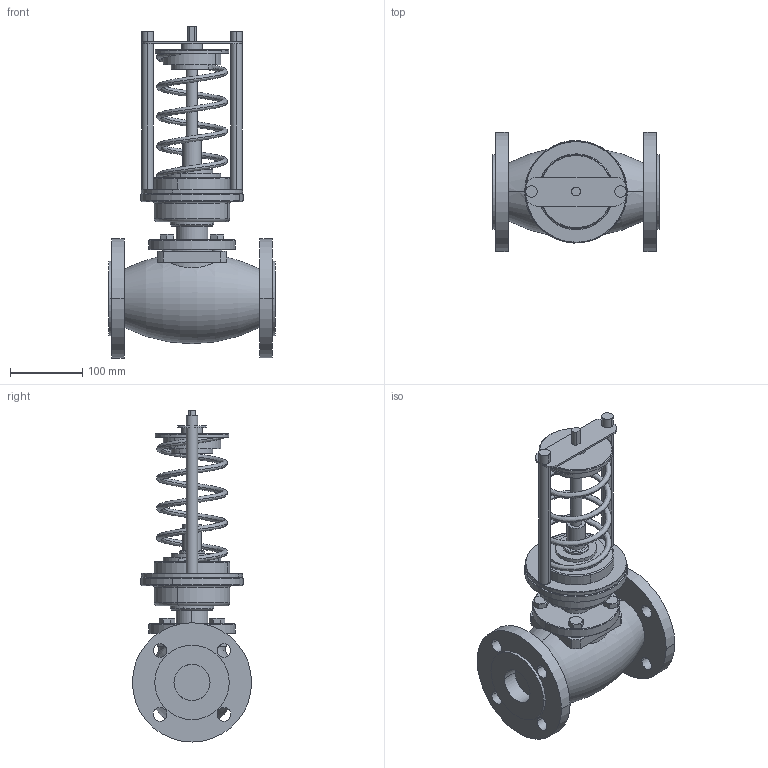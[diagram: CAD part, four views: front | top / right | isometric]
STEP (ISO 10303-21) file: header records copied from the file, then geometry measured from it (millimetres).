
FILE_DESCRIPTION (( 'STEP AP214' ), '1' );
FILE_NAME ('RDT, RDT-B DN-50.STEP', '2025-12-12T05:58:33', ( '' ), ( '' ), 'SwSTEP 2.0', 'SolidWorks 2023', '' );
FILE_SCHEMA (( 'AUTOMOTIVE_DESIGN' ));
Length unit declared in the file: millimetre
Products named in the file (1): RDT, RDT-B DN-50
Bounding box: 230 x 165 x 459.5 mm (x, y, z)
Volume: 3854076.3 mm3; surface area: 353022.2 mm2
Topology: 1 solids, 1 shells, 218 faces, 533 edges, 340 vertices
Faces by surface type: cylinder 99, plane 82, cone 27, torus 8, bspline 2
Entity records: 19209 total; most frequent: CARTESIAN_POINT 13847, DIRECTION 1180, ORIENTED_EDGE 1066, EDGE_CURVE 533, AXIS2_PLACEMENT_3D 475, VERTEX_POINT 340, EDGE_LOOP 271, CIRCLE 258
